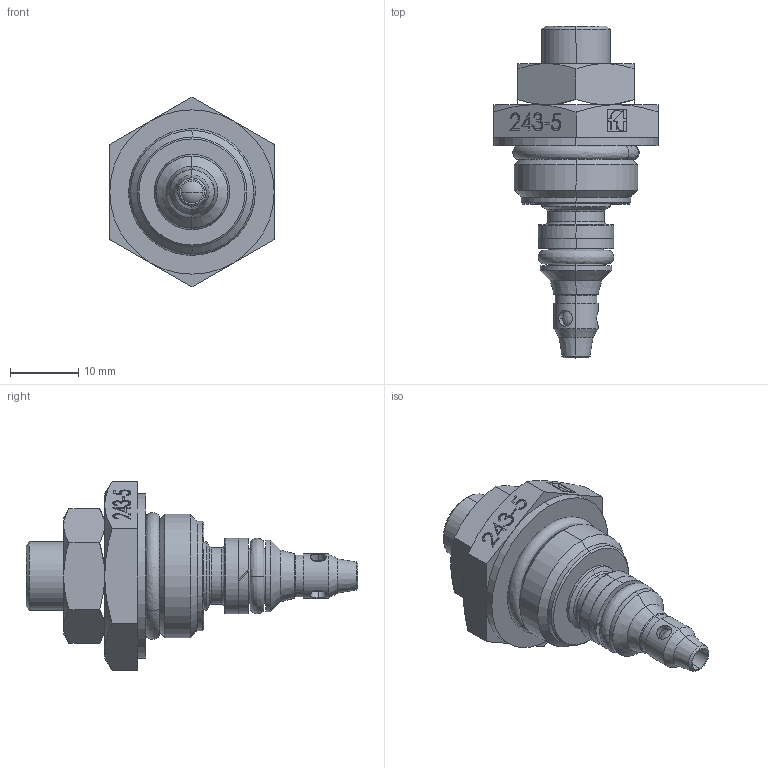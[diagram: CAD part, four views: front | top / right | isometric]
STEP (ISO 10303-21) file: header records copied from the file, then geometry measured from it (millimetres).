
FILE_DESCRIPTION (( 'STEP AP214' ), '1' );
FILE_NAME ('2243-5-38.STEP', '2014-03-13T21:32:25', ( '' ), ( '' ), 'SwSTEP 2.0', 'SolidWorks 2012', '' );
FILE_SCHEMA (( 'AUTOMOTIVE_DESIGN' ));
Length unit declared in the file: millimetre
Products named in the file (1): 2243-5-38
Bounding box: 24 x 48.5 x 27.71 mm (x, y, z)
Surface area: 4092.4 mm2 (no closed solid volume)
Topology: 0 solids, 8 shells, 242 faces, 650 edges, 414 vertices
Faces by surface type: plane 92, bspline 65, cylinder 41, cone 34, torus 10
Entity records: 14902 total; most frequent: CARTESIAN_POINT 6674, ORIENTED_EDGE 1198, DIRECTION 964, EDGE_CURVE 646, VERTEX_POINT 414, LINE 336, VECTOR 336, AXIS2_PLACEMENT_3D 314
